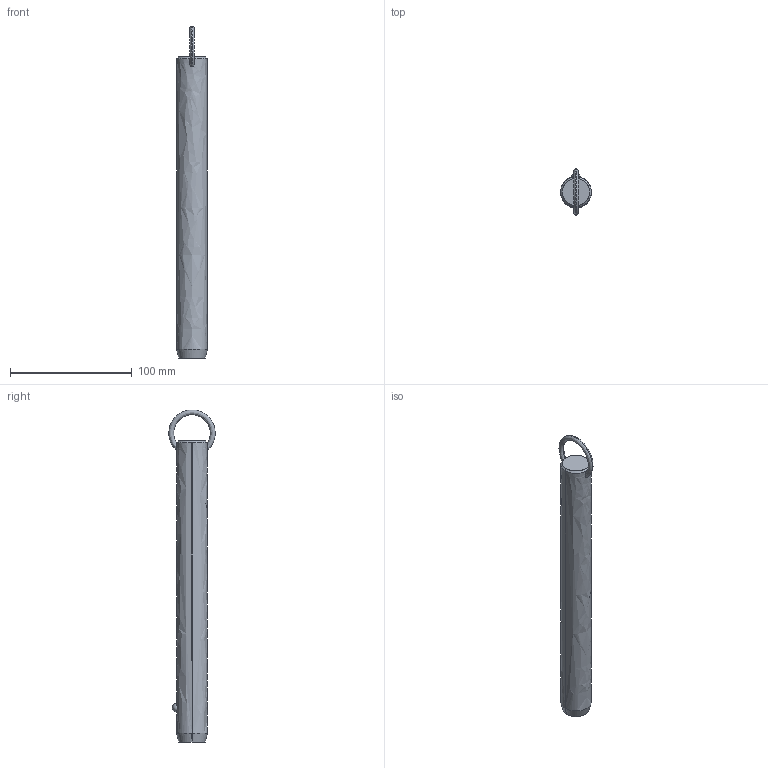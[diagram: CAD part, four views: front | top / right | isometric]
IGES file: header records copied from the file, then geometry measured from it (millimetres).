
Start section: SolidWorks IGES file using analytic representation for surfaces
Global section: file name: C:\Users\liam_\OneDrive\Documents\WORK\Work for WixRoyd\Job Files\J-00019 - Matt Davis CAD Checking\04. CAD Drawings\automotion20190605\P1250.2_v2\P1250.2_v2_20190729_IGES\P1250.100-800.igs; native system: SolidWorks 2017; preprocessor: SolidWorks 2017; author: liam_; date: 190730.175127; units: millimetre
Bounding box: 25.4 x 38.1 x 272.98 mm (x, y, z)
Surface area: 21530.9 mm2 (no closed solid volume)
Topology: 0 solids, 0 shells, 12 faces, 298 edges, 296 vertices
Faces by surface type: revolution 8, bspline 4
